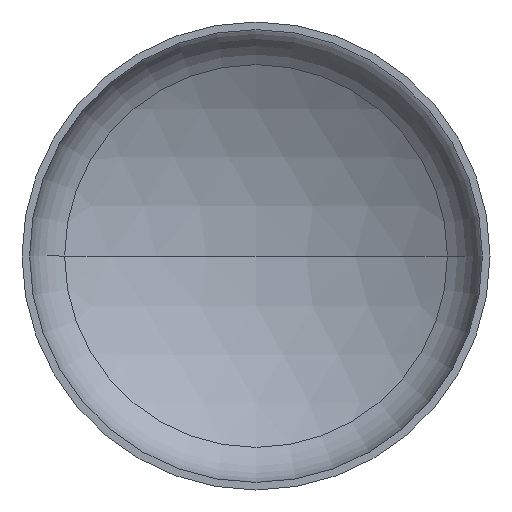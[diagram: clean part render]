
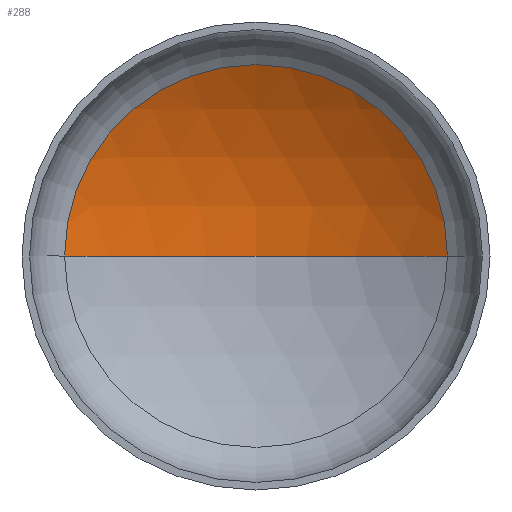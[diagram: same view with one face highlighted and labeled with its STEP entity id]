
A CAD part, front view. The second image highlights one B-rep face of the part: STEP entity #288.
In plain terms, the highlighted spherical face has radius 1280 mm.
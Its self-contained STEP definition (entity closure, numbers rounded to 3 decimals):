
#17 = AXIS2_PLACEMENT_3D ( 'NONE', #279, #171, #286 ) ;
#18 = VERTEX_POINT ( 'NONE', #258 ) ;
#25 = DIRECTION ( 'NONE',  ( 0., -1., 0. ) ) ;
#41 = AXIS2_PLACEMENT_3D ( 'NONE', #357, #224, #379 ) ;
#44 = AXIS2_PLACEMENT_3D ( 'NONE', #218, #349, #166 ) ;
#46 = AXIS2_PLACEMENT_3D ( 'NONE', #162, #25, #116 ) ;
#51 = VERTEX_POINT ( 'NONE', #114 ) ;
#64 = VERTEX_POINT ( 'NONE', #238 ) ;
#66 = ORIENTED_EDGE ( 'NONE', *, *, #91, .T. ) ;
#70 = EDGE_LOOP ( 'NONE', ( #134, #123, #66 ) ) ;
#91 = EDGE_CURVE ( 'NONE', #64, #18, #94, .T. ) ;
#93 = EDGE_CURVE ( 'NONE', #51, #64, #372, .T. ) ;
#94 = CIRCLE ( 'NONE', #46, 654.222 ) ;
#95 = EDGE_CURVE ( 'NONE', #51, #18, #254, .T. ) ;
#114 = CARTESIAN_POINT ( 'NONE',  ( 0., 475.402, 0. ) ) ;
#116 = DIRECTION ( 'NONE',  ( 1., 0., 0. ) ) ;
#123 = ORIENTED_EDGE ( 'NONE', *, *, #93, .T. ) ;
#134 = ORIENTED_EDGE ( 'NONE', *, *, #95, .F. ) ;
#162 = CARTESIAN_POINT ( 'NONE',  ( 0., 295.581, 0. ) ) ;
#166 = DIRECTION ( 'NONE',  ( -1., 0., 0. ) ) ;
#171 = DIRECTION ( 'NONE',  ( 0., 0., -1. ) ) ;
#177 = SPHERICAL_SURFACE ( 'NONE', #17, 1280. ) ;
#218 = CARTESIAN_POINT ( 'NONE',  ( 0., -804.598, 0. ) ) ;
#224 = DIRECTION ( 'NONE',  ( 0., 0., 1. ) ) ;
#238 = CARTESIAN_POINT ( 'NONE',  ( 654.222, 295.581, 0. ) ) ;
#239 = FACE_OUTER_BOUND ( 'NONE', #70, .T. ) ;
#254 = CIRCLE ( 'NONE', #41, 1280. ) ;
#258 = CARTESIAN_POINT ( 'NONE',  ( -654.222, 295.581, 0. ) ) ;
#279 = CARTESIAN_POINT ( 'NONE',  ( 0., -804.598, 0. ) ) ;
#286 = DIRECTION ( 'NONE',  ( -1., 0., 0. ) ) ;
#288 = ADVANCED_FACE ( 'NONE', ( #239 ), #177, .F. ) ;
#349 = DIRECTION ( 'NONE',  ( 0., 0., -1. ) ) ;
#357 = CARTESIAN_POINT ( 'NONE',  ( 0., -804.598, 0. ) ) ;
#372 = CIRCLE ( 'NONE', #44, 1280. ) ;
#379 = DIRECTION ( 'NONE',  ( 1., 0., 0. ) ) ;
